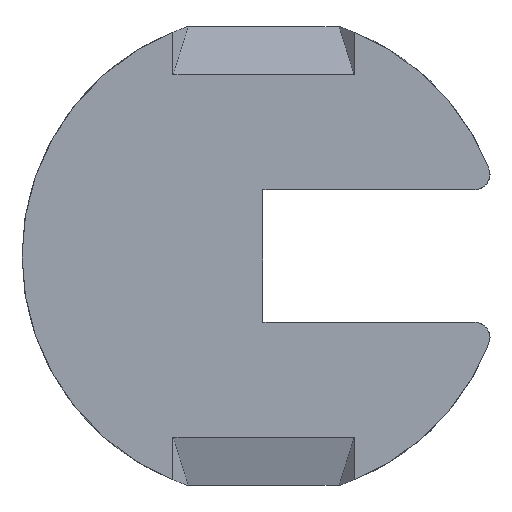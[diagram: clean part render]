
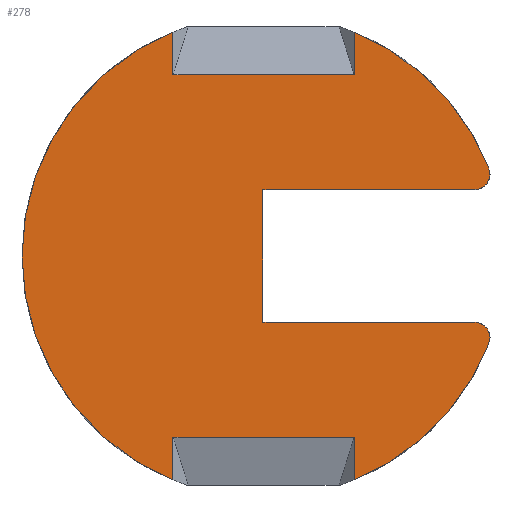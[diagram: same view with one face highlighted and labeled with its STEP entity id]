
A CAD part, top view. The second image highlights one B-rep face of the part: STEP entity #278.
In plain terms, the highlighted planar face has unit normal (0, 0, 1).
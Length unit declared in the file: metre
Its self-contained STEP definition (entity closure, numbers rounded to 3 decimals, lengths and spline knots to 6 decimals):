
#13=PLANE('',#320);
#29=LINE('',#470,#53);
#30=LINE('',#472,#54);
#31=LINE('',#474,#55);
#32=LINE('',#480,#56);
#33=LINE('',#482,#57);
#34=LINE('',#484,#58);
#35=LINE('',#487,#59);
#36=LINE('',#489,#60);
#37=LINE('',#491,#61);
#53=VECTOR('',#379,1.);
#54=VECTOR('',#380,1.);
#55=VECTOR('',#381,1.);
#56=VECTOR('',#386,1.);
#57=VECTOR('',#387,1.);
#58=VECTOR('',#388,1.);
#59=VECTOR('',#391,1.);
#60=VECTOR('',#392,1.);
#61=VECTOR('',#393,1.);
#97=ORIENTED_EDGE('',*,*,#159,.T.);
#98=ORIENTED_EDGE('',*,*,#176,.T.);
#99=ORIENTED_EDGE('',*,*,#177,.T.);
#100=ORIENTED_EDGE('',*,*,#178,.T.);
#101=ORIENTED_EDGE('',*,*,#179,.T.);
#102=ORIENTED_EDGE('',*,*,#180,.T.);
#103=ORIENTED_EDGE('',*,*,#181,.F.);
#104=ORIENTED_EDGE('',*,*,#182,.F.);
#105=ORIENTED_EDGE('',*,*,#183,.T.);
#106=ORIENTED_EDGE('',*,*,#184,.T.);
#107=ORIENTED_EDGE('',*,*,#164,.T.);
#108=ORIENTED_EDGE('',*,*,#185,.T.);
#109=ORIENTED_EDGE('',*,*,#186,.F.);
#110=ORIENTED_EDGE('',*,*,#187,.T.);
#159=EDGE_CURVE('',#201,#200,#226,.T.);
#164=EDGE_CURVE('',#206,#205,#229,.T.);
#176=EDGE_CURVE('',#200,#215,#29,.T.);
#177=EDGE_CURVE('',#215,#216,#30,.T.);
#178=EDGE_CURVE('',#216,#217,#31,.T.);
#179=EDGE_CURVE('',#217,#218,#235,.T.);
#180=EDGE_CURVE('',#218,#219,#236,.T.);
#181=EDGE_CURVE('',#220,#219,#32,.T.);
#182=EDGE_CURVE('',#221,#220,#33,.T.);
#183=EDGE_CURVE('',#221,#222,#34,.T.);
#184=EDGE_CURVE('',#222,#206,#237,.T.);
#185=EDGE_CURVE('',#205,#223,#35,.T.);
#186=EDGE_CURVE('',#224,#223,#36,.T.);
#187=EDGE_CURVE('',#224,#201,#37,.T.);
#200=VERTEX_POINT('',#435);
#201=VERTEX_POINT('',#437);
#205=VERTEX_POINT('',#446);
#206=VERTEX_POINT('',#448);
#215=VERTEX_POINT('',#471);
#216=VERTEX_POINT('',#473);
#217=VERTEX_POINT('',#475);
#218=VERTEX_POINT('',#477);
#219=VERTEX_POINT('',#479);
#220=VERTEX_POINT('',#481);
#221=VERTEX_POINT('',#483);
#222=VERTEX_POINT('',#485);
#223=VERTEX_POINT('',#488);
#224=VERTEX_POINT('',#490);
#226=CIRCLE('',#307,0.0508);
#229=CIRCLE('',#313,0.0508);
#235=CIRCLE('',#321,0.0508);
#236=CIRCLE('',#322,0.003175);
#237=CIRCLE('',#323,0.003175);
#241=EDGE_LOOP('',(#97,#98,#99,#100,#101,#102,#103,#104,#105,#106,#107,
#108,#109,#110));
#257=FACE_BOUND('',#241,.T.);
#278=ADVANCED_FACE('',(#257),#13,.T.);
#307=AXIS2_PLACEMENT_3D('',#436,#345,#346);
#313=AXIS2_PLACEMENT_3D('',#447,#357,#358);
#320=AXIS2_PLACEMENT_3D('',#469,#377,#378);
#321=AXIS2_PLACEMENT_3D('',#476,#382,#383);
#322=AXIS2_PLACEMENT_3D('',#478,#384,#385);
#323=AXIS2_PLACEMENT_3D('',#486,#389,#390);
#345=DIRECTION('',(0.,0.,1.));
#346=DIRECTION('',(0.,-1.,0.));
#357=DIRECTION('',(0.,0.,1.));
#358=DIRECTION('',(0.,-1.,0.));
#377=DIRECTION('',(0.,0.,1.));
#378=DIRECTION('',(1.,0.,0.));
#379=DIRECTION('',(0.,1.,0.));
#380=DIRECTION('',(1.,0.,0.));
#381=DIRECTION('',(0.,-1.,0.));
#382=DIRECTION('',(0.,0.,1.));
#383=DIRECTION('',(0.,-1.,0.));
#384=DIRECTION('',(0.,0.,1.));
#385=DIRECTION('',(0.,-1.,0.));
#386=DIRECTION('',(1.,0.,0.));
#387=DIRECTION('',(0.,-1.,0.));
#388=DIRECTION('',(1.,0.,0.));
#389=DIRECTION('',(0.,0.,1.));
#390=DIRECTION('',(0.,-1.,0.));
#391=DIRECTION('',(0.,-1.,0.));
#392=DIRECTION('',(1.,0.,0.));
#393=DIRECTION('',(0.,1.,0.));
#435=CARTESIAN_POINT('',(-0.091382,-0.059793,0.003175));
#436=CARTESIAN_POINT('',(-0.072332,-0.0127,0.003175));
#437=CARTESIAN_POINT('',(-0.091382,0.034393,0.003175));
#446=CARTESIAN_POINT('',(-0.053282,0.034393,0.003175));
#447=CARTESIAN_POINT('',(-0.072332,-0.0127,0.003175));
#448=CARTESIAN_POINT('',(-0.024938,0.005588,0.003175));
#469=CARTESIAN_POINT('',(-0.067347,-0.0127,0.003175));
#470=CARTESIAN_POINT('',(-0.091382,-0.0508,0.003175));
#471=CARTESIAN_POINT('',(-0.091382,-0.0508,0.003175));
#472=CARTESIAN_POINT('',(-0.080269,-0.0508,0.003175));
#473=CARTESIAN_POINT('',(-0.053282,-0.0508,0.003175));
#474=CARTESIAN_POINT('',(-0.053282,-0.0127,0.003175));
#475=CARTESIAN_POINT('',(-0.053282,-0.059793,0.003175));
#476=CARTESIAN_POINT('',(-0.072332,-0.0127,0.003175));
#477=CARTESIAN_POINT('',(-0.024938,-0.030988,0.003175));
#478=CARTESIAN_POINT('',(-0.0279,-0.029845,0.003175));
#479=CARTESIAN_POINT('',(-0.0279,-0.02667,0.003175));
#480=CARTESIAN_POINT('',(-0.048546,-0.02667,0.003175));
#481=CARTESIAN_POINT('',(-0.072459,-0.02667,0.003175));
#482=CARTESIAN_POINT('',(-0.072459,-0.0127,0.003175));
#483=CARTESIAN_POINT('',(-0.072459,0.00127,0.003175));
#484=CARTESIAN_POINT('',(-0.048546,0.00127,0.003175));
#485=CARTESIAN_POINT('',(-0.0279,0.00127,0.003175));
#486=CARTESIAN_POINT('',(-0.0279,0.004445,0.003175));
#487=CARTESIAN_POINT('',(-0.053282,-0.0127,0.003175));
#488=CARTESIAN_POINT('',(-0.053282,0.0254,0.003175));
#489=CARTESIAN_POINT('',(-0.080269,0.0254,0.003175));
#490=CARTESIAN_POINT('',(-0.091382,0.0254,0.003175));
#491=CARTESIAN_POINT('',(-0.091382,0.035556,0.003175));
